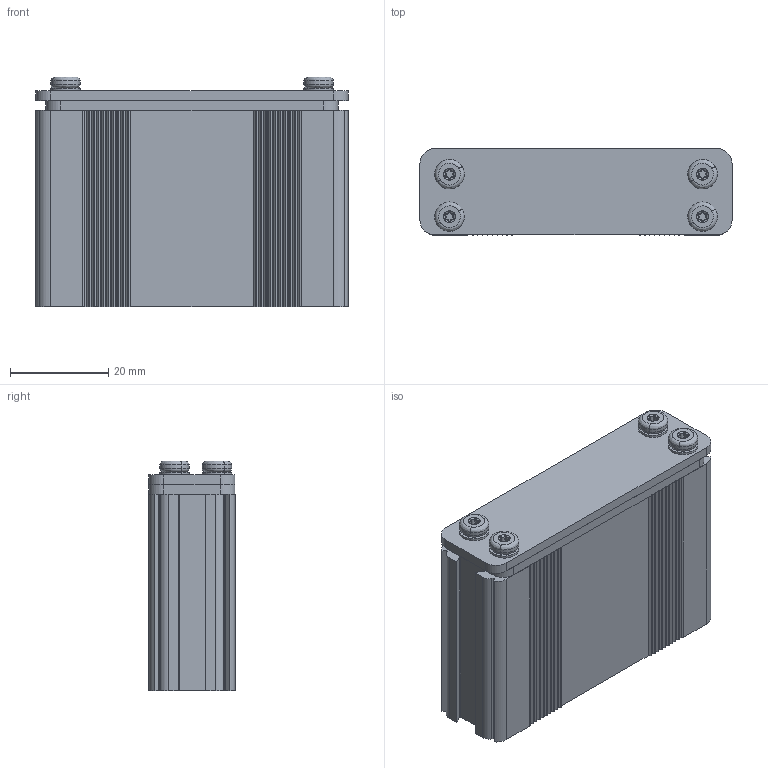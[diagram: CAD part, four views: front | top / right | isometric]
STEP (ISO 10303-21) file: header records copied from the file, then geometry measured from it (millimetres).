
FILE_DESCRIPTION (( 'STEP AP214' ), '1' );
FILE_NAME ('B1-S-040.STEP', '2019-09-02T16:39:37', ( 'Rudy' ), ( '' ), 'SwSTEP 2.0', 'SolidWorks 2014', '' );
FILE_SCHEMA (( 'AUTOMOTIVE_DESIGN' ));
Length unit declared in the file: millimetre
Products named in the file (7): Screw assembly; SEALING WASHER; Torx Screw M3X0.5; B1 End Plate; SK-1-S-Sealing Kit; B1-040; B1-S-040
Assembly tree (9 placements, depth 3):
  B1-S-040
    B1-040
    SK-1-S-Sealing Kit
    B1 End Plate
    Screw assembly  x4
      Torx Screw M3X0.5
      SEALING WASHER
Bounding box: 63.52 x 17.55 x 46.8 mm (x, y, z)
Volume: 18239.1 mm3; surface area: 19712.8 mm2
Topology: 11 solids, 11 shells, 441 faces, 1185 edges, 778 vertices
Faces by surface type: cylinder 189, plane 140, cone 88, bspline 24
Entity records: 11120 total; most frequent: CARTESIAN_POINT 2147, DIRECTION 1809, ORIENTED_EDGE 1740, EDGE_CURVE 870, AXIS2_PLACEMENT_3D 661, VERTEX_POINT 577, VECTOR 487, LINE 487
